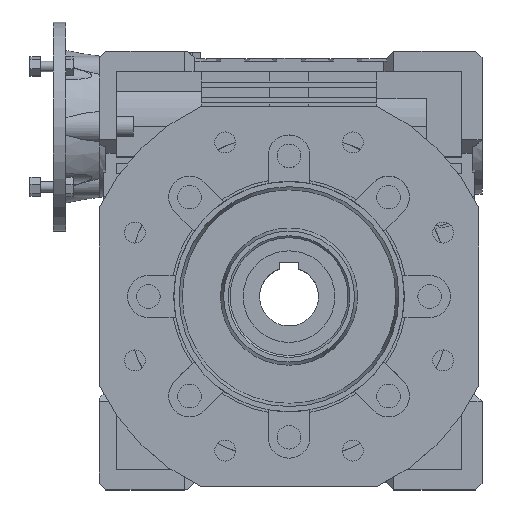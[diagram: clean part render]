
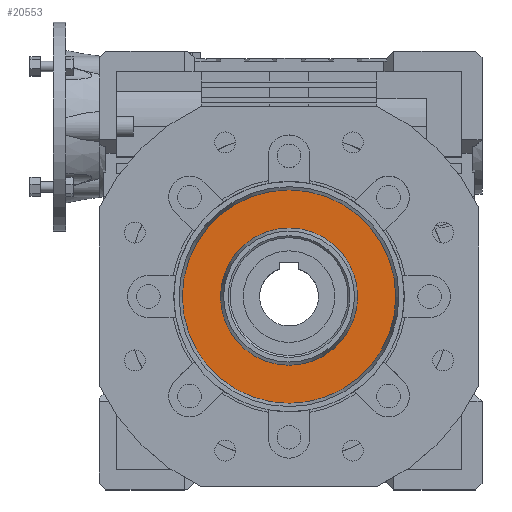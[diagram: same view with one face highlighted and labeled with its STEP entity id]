
A CAD part, top view. The second image highlights one B-rep face of the part: STEP entity #20553.
In plain terms, the highlighted planar face has unit normal (0, 0, 1).
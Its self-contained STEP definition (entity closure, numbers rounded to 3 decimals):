
#20503 = VERTEX_POINT('',#20504);
#20504 = CARTESIAN_POINT('',(0.,-81.59,-76.));
#20509 = EDGE_CURVE('',#20503,#20503,#20510,.T.);
#20510 = CIRCLE('',#20511,81.59);
#20511 = AXIS2_PLACEMENT_3D('',#20512,#20513,#20514);
#20512 = CARTESIAN_POINT('',(0.,0.,-76.));
#20513 = DIRECTION('',(-0.,-0.,-1.));
#20514 = DIRECTION('',(0.,-1.,0.));
#20525 = EDGE_CURVE('',#20526,#20526,#20528,.T.);
#20526 = VERTEX_POINT('',#20527);
#20527 = CARTESIAN_POINT('',(0.,-52.41,-76.));
#20528 = CIRCLE('',#20529,52.41);
#20529 = AXIS2_PLACEMENT_3D('',#20530,#20531,#20532);
#20530 = CARTESIAN_POINT('',(0.,0.,-76.));
#20531 = DIRECTION('',(-0.,-0.,-1.));
#20532 = DIRECTION('',(0.,-1.,0.));
#20553 = ADVANCED_FACE('',(#20554,#20557),#20560,.F.);
#20554 = FACE_BOUND('',#20555,.F.);
#20555 = EDGE_LOOP('',(#20556));
#20556 = ORIENTED_EDGE('',*,*,#20509,.T.);
#20557 = FACE_BOUND('',#20558,.F.);
#20558 = EDGE_LOOP('',(#20559));
#20559 = ORIENTED_EDGE('',*,*,#20525,.F.);
#20560 = PLANE('',#20561);
#20561 = AXIS2_PLACEMENT_3D('',#20562,#20563,#20564);
#20562 = CARTESIAN_POINT('',(-52.41,0.,-76.));
#20563 = DIRECTION('',(0.,0.,-1.));
#20564 = DIRECTION('',(0.,-1.,0.));
